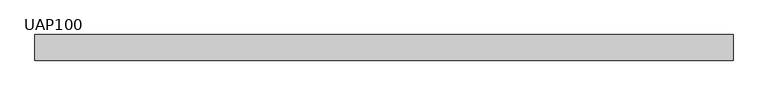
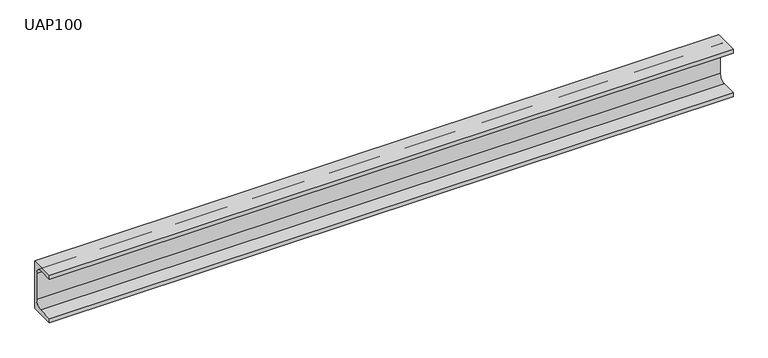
"""IFC4 building model written with IfcOpenShell, lengths in millimetres: beam geometry, U-Fers a ailes parallèles : UAP100."""

from ifc_helpers import new_model, si_unit, point, frame, frame_2d, origin, place, context, project, spatial, polyline, circle_curve, trimmed, segment, composite_curve, outline, extrude, source, transform, mapped, element, save


def uap100_483e91ff(model_context):
    return source(origin(), model_context, "Body", "SweptSolid", [
        extrude(outline(composite_curve([segment(polyline([(17.0, 50.0), (17.0, -50.0), (-33.0, -50.0), (-33.0, -41.5), (-2.5, -41.5)]), True, "CONTINUOUS"), segment(trimmed(circle_curve(frame_2d((-2.5, -27.5)), 14.0), [point((-2.5, -41.5))], [point((11.5, -27.5))], True, "CARTESIAN"), True, "CONTINUOUS"), segment(polyline([(11.5, -27.5), (11.5, 27.5)]), True, "CONTINUOUS"), segment(trimmed(circle_curve(frame_2d((-2.5, 27.5)), 14.0), [point((11.5, 27.5))], [point((-2.5, 41.5))], True, "CARTESIAN"), True, "CONTINUOUS"), segment(polyline([(-2.5, 41.5), (-33.0, 41.5), (-33.0, 50.0), (17.0, 50.0)]), True, "CONTINUOUS")], self_intersect=False)), frame((-681.4721906, 0.0, 0.0), z_axis=(1.0, 0.0, 0.0), x_axis=(0.0, 1.0, 0.0)), (0.0, 0.0, 1.0), 1362.9443813),
    ])


if __name__ == "__main__":
    model = new_model("IFC4")
    model_context = context("Model", 3, world=origin())
    ifc_project = project(units=[si_unit("LENGTHUNIT", "METRE", prefix="MILLI")], contexts=[model_context])
    site = spatial("IfcSite", under=ifc_project)
    building = spatial("IfcBuilding", under=site)
    placement = place(None, origin())
    uap100_shape = uap100_483e91ff(model_context)
    element("IfcBeam", 1, ObjectType="U-Fers a ailes parallèles : UAP100", at=placement, inside=building, context=model_context, shape_type="MappedRepresentation", body=[
        mapped(uap100_shape, transform((0.0, 0.0, 0.0), x_axis=(1.0, 0.0, 0.0), y_axis=(0.0, 1.0, 0.0), z_axis=(0.0, 0.0, 1.0))),
    ])
    save(model, "model.ifc")
